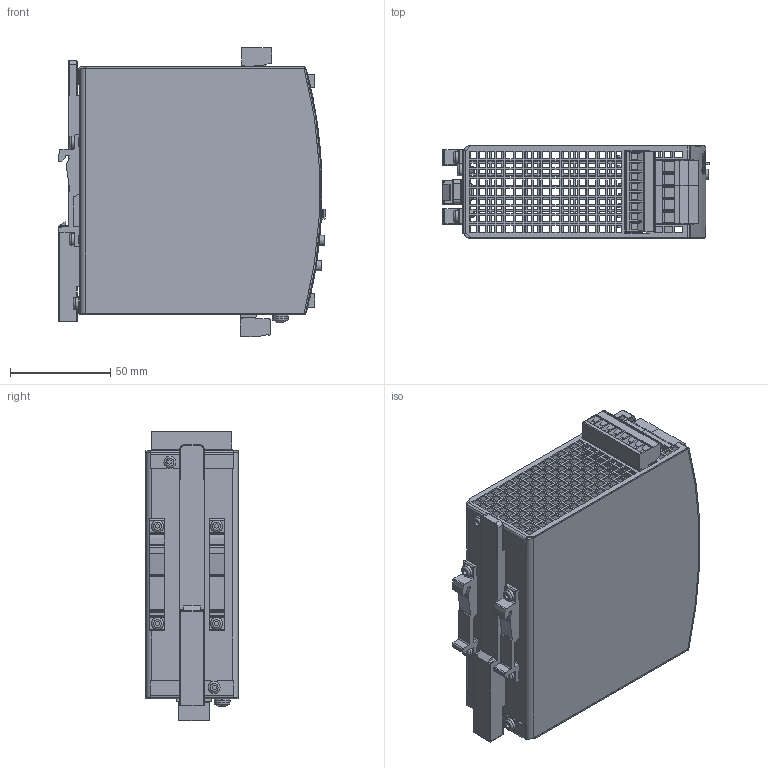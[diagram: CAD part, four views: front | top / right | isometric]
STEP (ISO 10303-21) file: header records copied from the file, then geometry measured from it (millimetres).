
FILE_DESCRIPTION((''),'2;1');
FILE_NAME('C:\Users\rahns\Desktop\392\md3_ub20_241.stp','2014-01-15T13:37:02',('rahns'),(''),'Autodesk Inventor 2009','Autodesk Inventor 2009','');
FILE_SCHEMA(('AUTOMOTIVE_DESIGN { 1 0 10303 214 1 1 1 1 }'));
Length unit declared in the file: millimetre
Products named in the file (21): 392; HOUSING BODY 392; T HOLDER; SCREW 3x6; SLIDER; HOUSING COVER 392; FRONTFOIL 392; LED GN; LED RD; LED YE; JUMPER; JUMPER BRACKET; WASHER 4; SCREW 4x8; TERMINAL 2P D1; TERMINAL LP3BK-D1; TERMINAL 8P; TERMINAL 8P F; TERMINAL 3P M; TERMINAL 3P F; TEMINAL
Assembly tree (29 placements, depth 2):
  392
    HOUSING BODY 392
    T HOLDER  x2
    SCREW 3x6  x6
    SLIDER
    HOUSING COVER 392
    FRONTFOIL 392
    LED GN  x2
    LED RD
    LED YE
    JUMPER
    JUMPER BRACKET
    WASHER 4
    SCREW 4x8
    TERMINAL 2P D1  x2
    TERMINAL LP3BK-D1
    TERMINAL 8P
    TERMINAL 8P F
    TERMINAL 3P M
    TERMINAL 3P F
    TEMINAL  x2
Bounding box: 133.37 x 46 x 144.8 mm (x, y, z)
Volume: 96458.8 mm3; surface area: 130295.8 mm2
Topology: 29 solids, 29 shells, 4526 faces, 12403 edges, 8243 vertices
Faces by surface type: plane 3250, bspline 819, cylinder 414, cone 18, torus 16, sphere 9
Full cylindrical faces by diameter (mm): 1 x2, 1.4 x11, 2.45 x6, 2.8 x19, 3 x6, 3.1 x4, 3.621 x1, 3.7 x4, 3.78 x11, 4 x16, 4.6 x4, 5 x2, 5.15 x7, 5.3 x2, 5.6 x2, 6 x6
Entity records: 150436 total; most frequent: CARTESIAN_POINT 43277, ORIENTED_EDGE 23408, DIRECTION 18627, EDGE_CURVE 11704, VECTOR 8497, LINE 8497, VERTEX_POINT 7832, EDGE_LOOP 5278
